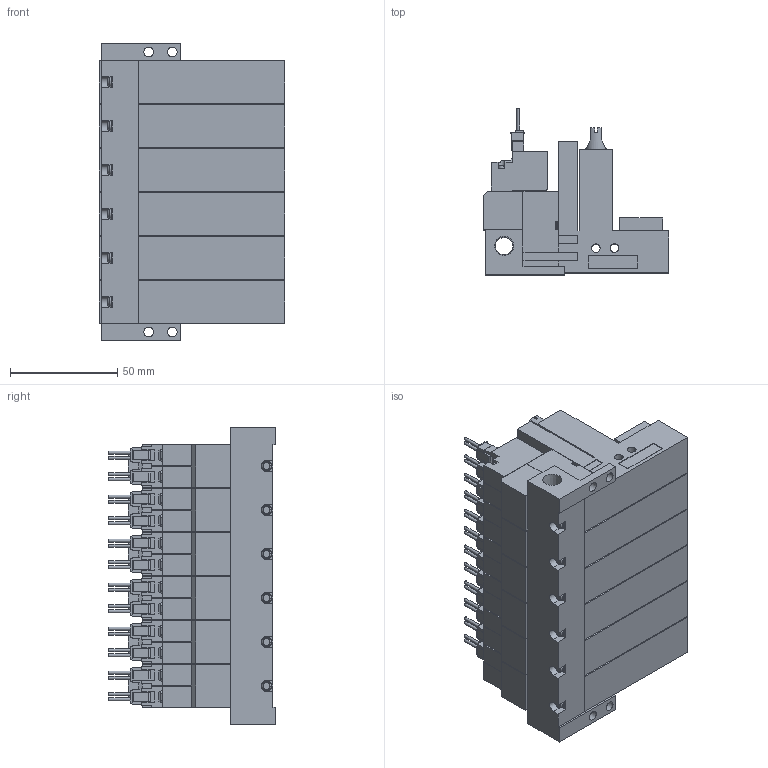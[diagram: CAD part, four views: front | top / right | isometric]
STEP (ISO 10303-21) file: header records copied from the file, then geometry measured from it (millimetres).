
FILE_DESCRIPTION(('STEP AP203'),'1');
FILE_NAME('ZL5BLR606.stp','2025-02-19T02:03:17',(' '),(' '),'Spatial InterOp 3D',' ',' ');
FILE_SCHEMA(('CONFIG_CONTROL_DESIGN'));
Length unit declared in the file: millimetre
Products named in the file (5): BMC22M※※※※ZL5BLR606; Solenoid valve B; Pressure sensor ZL; Unit L; Base MR60R
Assembly tree (19 placements, depth 2):
  BMC22M※※※※ZL5BLR606
    Solenoid valve B  x6
    Pressure sensor ZL  x6
    Unit L  x6
    Base MR60R
Bounding box: 86.6 x 77.45 x 138.5 mm (x, y, z)
Volume: 459546.4 mm3; surface area: 130328 mm2
Topology: 19 solids, 19 shells, 1953 faces, 5315 edges, 3508 vertices
Faces by surface type: plane 1682, cylinder 209, cone 44, torus 18
Full cylindrical faces by diameter (mm): 1.4 x24, 2.5 x6, 3 x24, 3.5 x24, 3.6 x6, 4 x12, 4.134 x6, 4.5 x4, 5.2 x6, 6 x6, 6.6 x6, 8.279 x1
Entity records: 13216 total; most frequent: CARTESIAN_POINT 2547, DIRECTION 2100, ORIENTED_EDGE 2040, EDGE_CURVE 1020, LINE 816, VECTOR 816, VERTEX_POINT 719, AXIS2_PLACEMENT_3D 642
